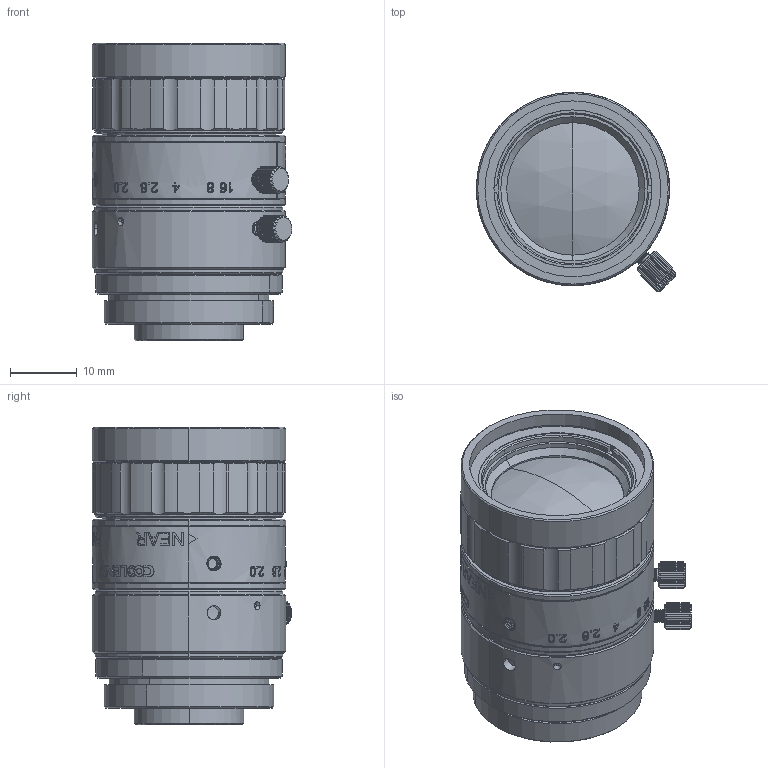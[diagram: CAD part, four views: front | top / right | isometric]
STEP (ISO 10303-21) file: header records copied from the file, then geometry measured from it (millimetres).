
FILE_DESCRIPTION (( 'STEP AP203' ), '1' );
FILE_NAME ('MFA230-S12.STEP', '2020-12-01T07:10:50', ( '' ), ( '' ), 'SwSTEP 2.0', 'SolidWorks 2017', '' );
FILE_SCHEMA (( 'CONFIG_CONTROL_DESIGN' ));
Length unit declared in the file: millimetre
Products named in the file (9): MFA230-S12.sldasm-Part-1; MFA230-S12; MFA230-S12.sldasm-Part-6; MFA230-S12.sldasm-Part-5; MFA230-S12.sldasm-Part-3; MFA230-S12.sldasm-Part-2; MFA230-S12.sldasm-Part-8; MFA230-S12.sldasm-Part-4; MFA230-S12.sldasm-Part-7
Assembly tree (8 placements, depth 2):
  MFA230-S12
    MFA230-S12.sldasm-Part-1
    MFA230-S12.sldasm-Part-2
    MFA230-S12.sldasm-Part-3
    MFA230-S12.sldasm-Part-4
    MFA230-S12.sldasm-Part-5
    MFA230-S12.sldasm-Part-6
    MFA230-S12.sldasm-Part-7
    MFA230-S12.sldasm-Part-8
Bounding box: 29.93 x 29.9 x 44.65 mm (x, y, z)
Volume: 24741.7 mm3; surface area: 10106.7 mm2
Topology: 8 solids, 12 shells, 5388 faces, 15548 edges, 10293 vertices
Faces by surface type: plane 4496, cylinder 549, bspline 172, cone 153, torus 12, sphere 6
Entity records: 278475 total; most frequent: CARTESIAN_POINT 158708, ORIENTED_EDGE 31084, DIRECTION 16701, EDGE_CURVE 15542, VERTEX_POINT 10293, B_SPLINE_CURVE_WITH_KNOTS 7553, AXIS2_PLACEMENT_3D 6177, EDGE_LOOP 5519
